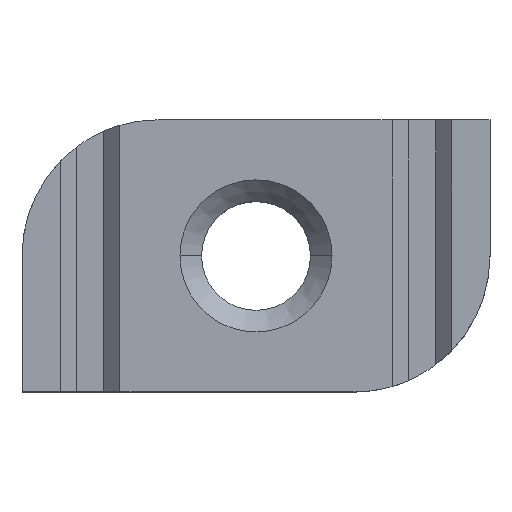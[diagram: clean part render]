
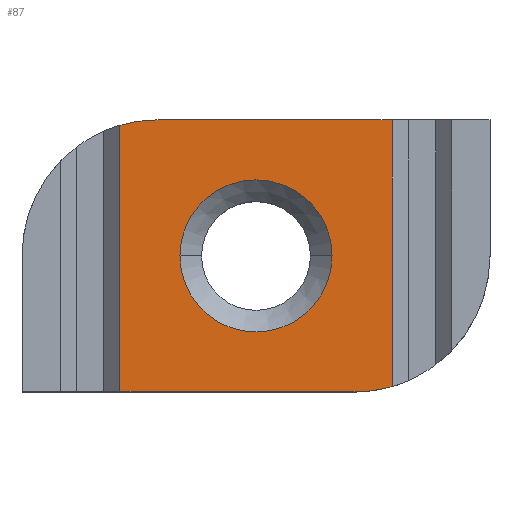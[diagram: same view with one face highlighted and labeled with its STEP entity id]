
A CAD part, top view. The second image highlights one B-rep face of the part: STEP entity #87.
In plain terms, the highlighted planar face has unit normal (0, 0, 1).
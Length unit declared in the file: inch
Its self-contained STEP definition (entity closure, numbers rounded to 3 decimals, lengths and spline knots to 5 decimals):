
#87=ADVANCED_FACE('',(#176,#177),#178,.F.);
#176=FACE_OUTER_BOUND('',#753,.T.);
#177=FACE_BOUND('',#754,.T.);
#178=PLANE('',#755);
#753=EDGE_LOOP('',(#1422,#1423,#1424,#1425,#1426,#1427));
#754=EDGE_LOOP('',(#1428,#1429));
#755=AXIS2_PLACEMENT_3D('',#1430,#1431,#1432);
#1422=ORIENTED_EDGE('',*,*,#1530,.T.);
#1423=ORIENTED_EDGE('',*,*,#1553,.T.);
#1424=ORIENTED_EDGE('',*,*,#1559,.F.);
#1425=ORIENTED_EDGE('',*,*,#1576,.T.);
#1426=ORIENTED_EDGE('',*,*,#1577,.T.);
#1427=ORIENTED_EDGE('',*,*,#1564,.F.);
#1428=ORIENTED_EDGE('',*,*,#1517,.F.);
#1429=ORIENTED_EDGE('',*,*,#1578,.F.);
#1430=CARTESIAN_POINT('',(0.67717,0.3937,0.31496));
#1431=DIRECTION('',(0.0,0.0,-1.0));
#1432=DIRECTION('',(1.0,0.0,0.0));
#1517=EDGE_CURVE('',#1620,#1616,#1622,.T.);
#1530=EDGE_CURVE('',#1644,#1641,#1645,.T.);
#1553=EDGE_CURVE('',#1641,#1677,#1679,.T.);
#1559=EDGE_CURVE('',#1686,#1677,#1688,.T.);
#1564=EDGE_CURVE('',#1644,#1693,#1694,.T.);
#1576=EDGE_CURVE('',#1686,#1709,#1710,.T.);
#1577=EDGE_CURVE('',#1709,#1693,#1711,.T.);
#1578=EDGE_CURVE('',#1616,#1620,#1712,.T.);
#1616=VERTEX_POINT('',#1800);
#1620=VERTEX_POINT('',#1805);
#1622=CIRCLE('',#1808,0.21998);
#1641=VERTEX_POINT('',#1833);
#1644=VERTEX_POINT('',#1837);
#1645=LINE('',#1838,#1839);
#1677=VERTEX_POINT('',#1925);
#1679=LINE('',#1928,#1929);
#1686=VERTEX_POINT('',#1937);
#1688=CIRCLE('',#1939,0.3937);
#1693=VERTEX_POINT('',#1945);
#1694=CIRCLE('',#1946,0.3937);
#1709=VERTEX_POINT('',#1967);
#1710=LINE('',#1968,#1969);
#1711=LINE('',#1970,#1971);
#1712=CIRCLE('',#1972,0.21998);
#1800=CARTESIAN_POINT('',(0.89715,0.3937,0.31496));
#1805=CARTESIAN_POINT('',(0.45719,0.3937,0.31496));
#1808=AXIS2_PLACEMENT_3D('',#2011,#2012,#2013);
#1833=CARTESIAN_POINT('',(1.07087,0.7874,0.31496));
#1837=CARTESIAN_POINT('',(1.07087,0.01575,0.31496));
#1838=CARTESIAN_POINT('',(1.07087,0.19685,0.31496));
#1839=VECTOR('',#2027,0.3937);
#1925=CARTESIAN_POINT('',(0.3937,0.7874,0.31496));
#1928=CARTESIAN_POINT('',(1.35433,0.7874,0.31496));
#1929=VECTOR('',#2059,0.3937);
#1937=CARTESIAN_POINT('',(0.28346,0.77165,0.31496));
#1939=AXIS2_PLACEMENT_3D('',#2070,#2071,#2072);
#1945=CARTESIAN_POINT('',(0.96063,0.,0.31496));
#1946=AXIS2_PLACEMENT_3D('',#2077,#2078,#2079);
#1967=CARTESIAN_POINT('',(0.28346,0.,0.31496));
#1968=CARTESIAN_POINT('',(0.28346,0.19685,0.31496));
#1969=VECTOR('',#2089,0.3937);
#1970=CARTESIAN_POINT('',(0.0,0.,0.31496));
#1971=VECTOR('',#2090,0.3937);
#1972=AXIS2_PLACEMENT_3D('',#2091,#2092,#2093);
#2011=CARTESIAN_POINT('',(0.67717,0.3937,0.31496));
#2012=DIRECTION('',(-0.0,0.0,1.0));
#2013=DIRECTION('',(1.0,0.0,0.0));
#2027=DIRECTION('',(0.0,1.0,0.0));
#2059=DIRECTION('',(-1.0,0.0,0.0));
#2070=CARTESIAN_POINT('',(0.3937,0.3937,0.31496));
#2071=DIRECTION('',(0.0,0.0,-1.0));
#2072=DIRECTION('',(-0.707,0.707,0.0));
#2077=CARTESIAN_POINT('',(0.96063,0.3937,0.31496));
#2078=DIRECTION('',(0.0,0.0,-1.0));
#2079=DIRECTION('',(0.707,-0.707,0.0));
#2089=DIRECTION('',(0.0,-1.0,0.0));
#2090=DIRECTION('',(1.0,0.0,0.0));
#2091=CARTESIAN_POINT('',(0.67717,0.3937,0.31496));
#2092=DIRECTION('',(-0.0,0.0,1.0));
#2093=DIRECTION('',(1.0,0.0,0.0));
